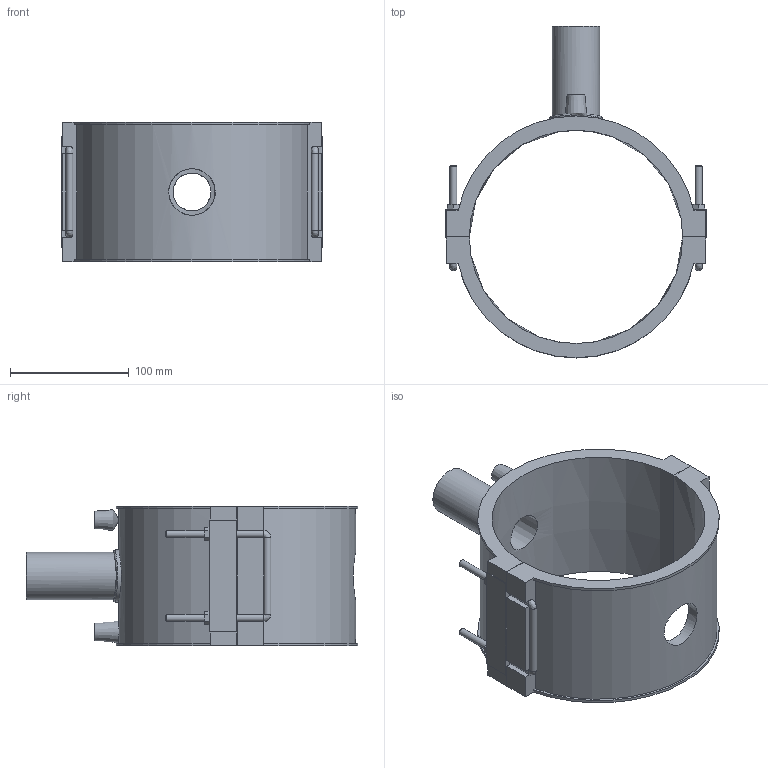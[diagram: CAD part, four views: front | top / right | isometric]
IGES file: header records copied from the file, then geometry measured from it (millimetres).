
Global section: file name: 495804180040.ipt; native system: Autodesk Inventor 2015; preprocessor: unknown; author: KIM; date: 20180426.120855; units: millimetre
Bounding box: 221 x 280 x 118 mm (x, y, z)
Volume: 855894.7 mm3; surface area: 200395.7 mm2
Topology: 2 solids, 2 shells, 125 faces, 316 edges, 198 vertices
Faces by surface type: plane 85, cylinder 22, cone 7, revolution 6, bspline 5
Full cylindrical faces by diameter (mm): 4 x2, 6 x10, 40 x1, 44 x1
